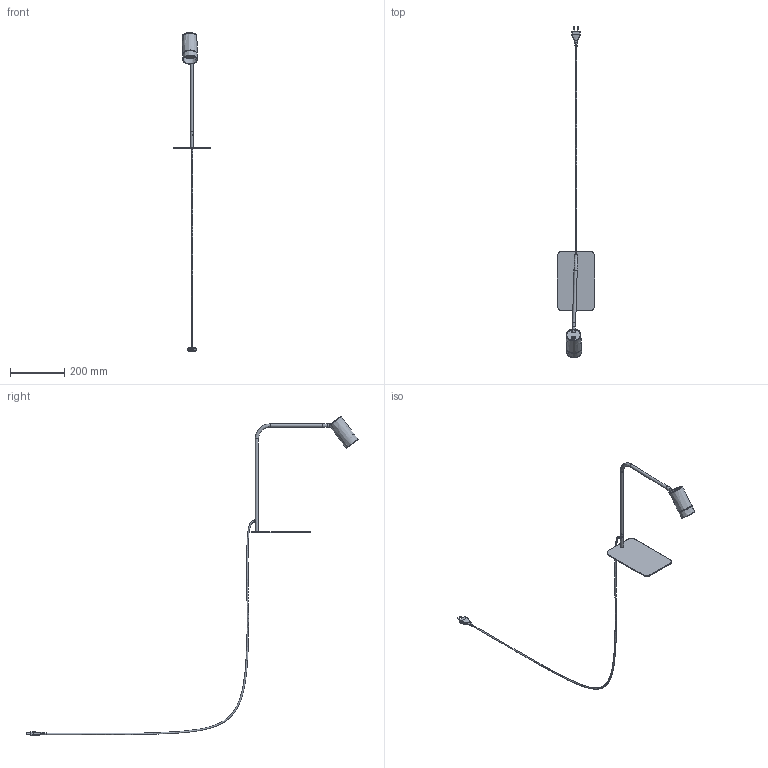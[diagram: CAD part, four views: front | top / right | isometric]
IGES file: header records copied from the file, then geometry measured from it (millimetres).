
Start section: SolidWorks IGES file using NURBS representation for surfaces
Global section: file name: 6HZ:\Modele 3D_WWW\_KOLEKCJE_WWW\MONO\MONO-PODΜGA\7703\MONO-BIURKOWA-7703.IGS; native system: SolidWorks 2021; preprocessor: SolidWorks 2021; author: gabriela.tworek; date: 220126.120957; units: millimetre
Bounding box: 140 x 1229.44 x 1181.47 mm (x, y, z)
Surface area: 161524.1 mm2 (no closed solid volume)
Topology: 0 solids, 0 shells, 100 faces, 532 edges, 514 vertices
Faces by surface type: bspline 100
